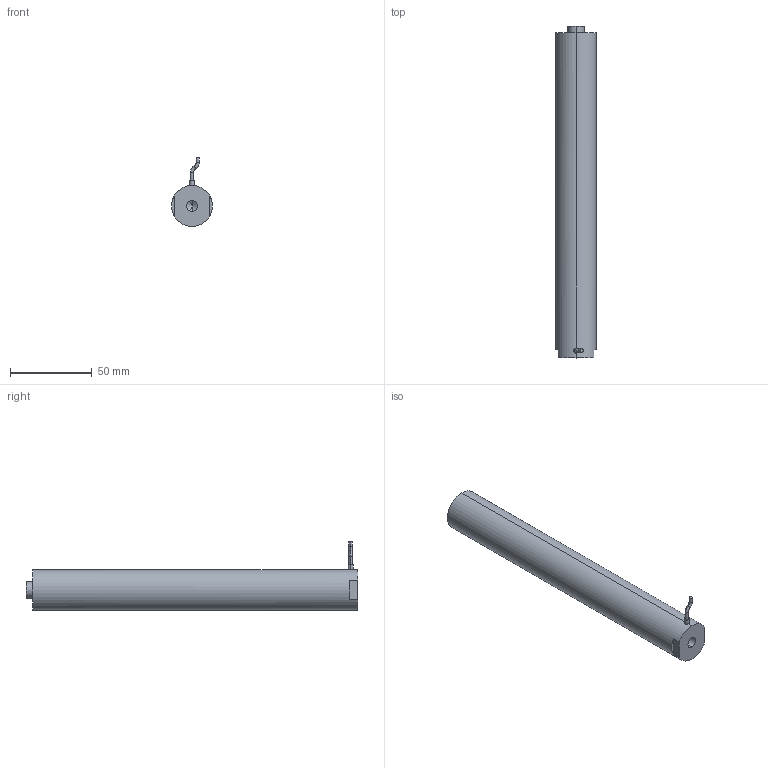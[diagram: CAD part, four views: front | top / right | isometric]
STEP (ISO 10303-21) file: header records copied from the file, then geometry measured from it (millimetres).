
FILE_DESCRIPTION (( 'STEP AP203' ), '1' );
FILE_NAME ('ﾆｽﾍｷﾊｽ200VS25.STEP', '2021-07-08T07:34:44', ( 'ﾎ｢ﾈ橆ﾃｻｧ' ), ( 'ﾎ｢ﾈ晥ｫﾋｾ' ), 'SwSTEP 2.0', 'SolidWorks 2016', '' );
FILE_SCHEMA (( 'CONFIG_CONTROL_DESIGN' ));
Products named in the file (1): ƽͷʽ200VS25
Bounding box: 25 x 203 x 42.06 mm (x, y, z)
Volume: 97532 mm3; surface area: 17096.7 mm2
Topology: 1 solids, 1 shells, 946 faces, 2570 edges, 1709 vertices
Faces by surface type: bspline 523, plane 307, cylinder 110, torus 4, cone 2
Entity records: 45724 total; most frequent: CARTESIAN_POINT 26524, ORIENTED_EDGE 5136, EDGE_CURVE 2568, DIRECTION 1938, B_SPLINE_CURVE_WITH_KNOTS 1746, VERTEX_POINT 1709, EDGE_LOOP 1031, ADVANCED_FACE 946
